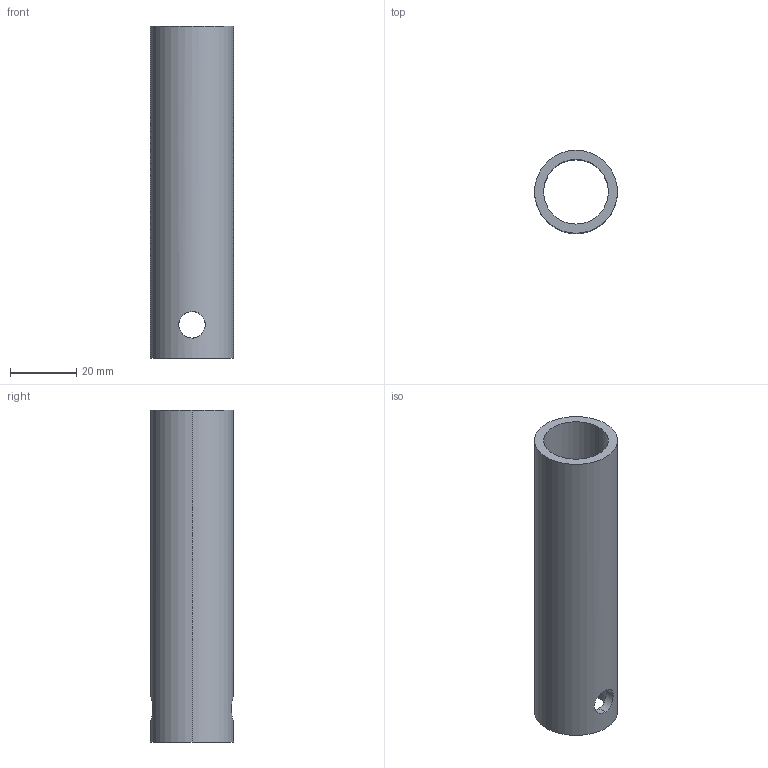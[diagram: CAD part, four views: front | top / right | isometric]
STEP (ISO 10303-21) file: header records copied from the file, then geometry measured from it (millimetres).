
FILE_DESCRIPTION (( 'STEP AP214' ), '1' );
FILE_NAME ('SMBY25-100.STEP', '2023-01-05T09:27:37', ( 'Windows User' ), ( 'P R C' ), 'SwSTEP 2.0', 'SolidWorks 2018', '' );
FILE_SCHEMA (( 'AUTOMOTIVE_DESIGN' ));
Length unit declared in the file: millimetre
Products named in the file (1): SMBY25-100
Bounding box: 25 x 25 x 100 mm (x, y, z)
Volume: 18941.4 mm3; surface area: 14303 mm2
Topology: 1 solids, 1 shells, 10 faces, 24 edges, 16 vertices
Faces by surface type: cylinder 8, plane 2
Entity records: 612 total; most frequent: CARTESIAN_POINT 315, ORIENTED_EDGE 48, DIRECTION 46, EDGE_CURVE 24, AXIS2_PLACEMENT_3D 19, VERTEX_POINT 16, EDGE_LOOP 16, FACE_OUTER_BOUND 10
